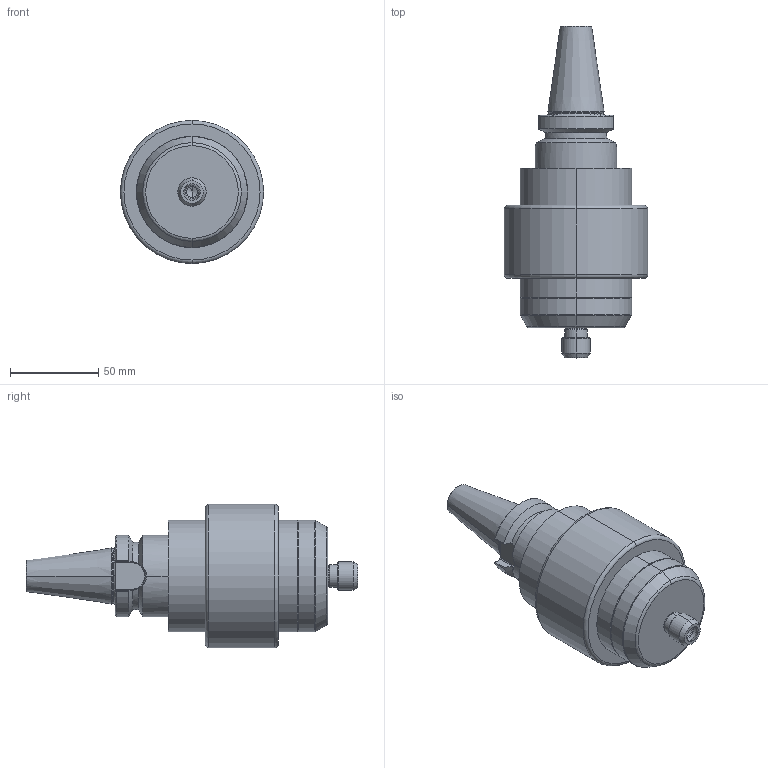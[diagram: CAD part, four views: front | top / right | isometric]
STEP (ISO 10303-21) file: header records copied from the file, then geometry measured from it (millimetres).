
FILE_DESCRIPTION (( 'STEP AP214' ), '1' );
FILE_NAME ('TJS GJET BT30 V4 - Light.STEP', '2025-11-08T13:53:01', ( 'pc' ), ( '' ), 'SwSTEP 2.0', 'SolidWorks 2024', '' );
FILE_SCHEMA (( 'AUTOMOTIVE_DESIGN' ));
Length unit declared in the file: millimetre
Products named in the file (1): TJS GJET BT30 V4 - Light
Bounding box: 81 x 187.7 x 81 mm (x, y, z)
Volume: 424376.7 mm3; surface area: 42707.2 mm2
Topology: 1 solids, 1 shells, 130 faces, 299 edges, 178 vertices
Faces by surface type: cone 39, cylinder 38, plane 31, torus 20, bspline 2
Entity records: 4208 total; most frequent: CARTESIAN_POINT 1257, DIRECTION 645, ORIENTED_EDGE 590, EDGE_CURVE 295, AXIS2_PLACEMENT_3D 266, VERTEX_POINT 178, EDGE_LOOP 141, CIRCLE 137
